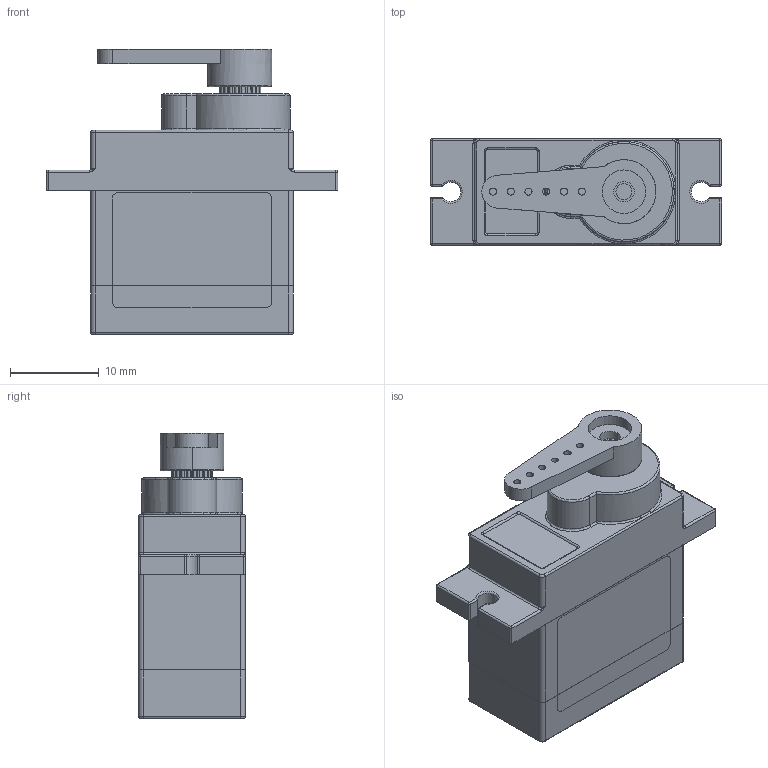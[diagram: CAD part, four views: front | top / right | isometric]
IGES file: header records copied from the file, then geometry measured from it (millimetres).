
Start section: START RECORD GO HERE.
Global section: file name: turnigy TG9e servo.igs; native system: IBM CATIA IGES - CATIA Version 5 Release 18 ; preprocessor: CATIA Version 5 Release 18 ; author: Casper; organization: Casper-pc; date: 20141030.160538; units: millimetre
Bounding box: 32.8 x 12.04 x 32.1 mm (x, y, z)
Surface area: 3576.2 mm2 (no closed solid volume)
Topology: 0 solids, 0 shells, 331 faces, 1836 edges, 1802 vertices
Faces by surface type: revolution 258, plane 58, extrusion 8, bspline 7
